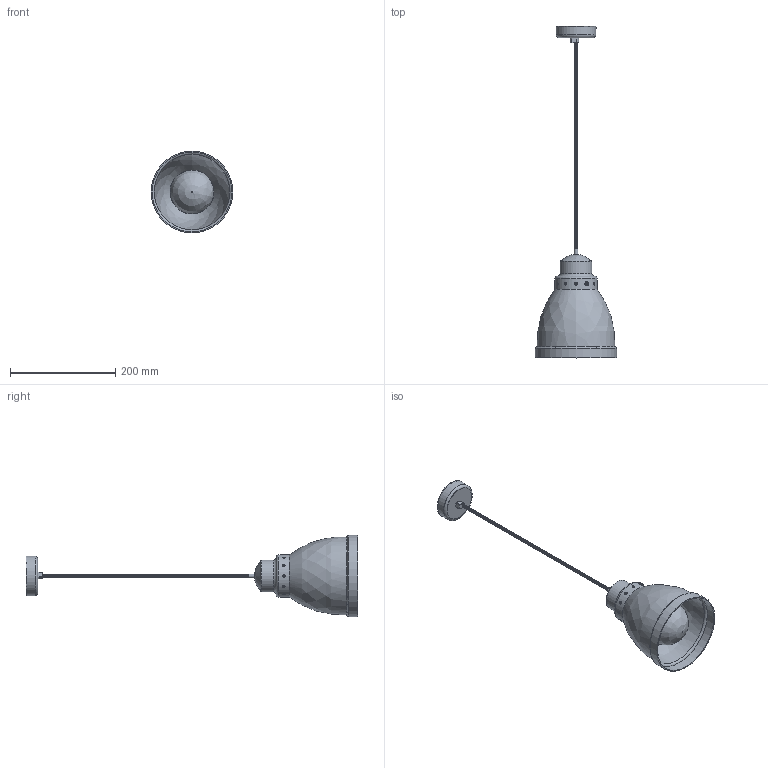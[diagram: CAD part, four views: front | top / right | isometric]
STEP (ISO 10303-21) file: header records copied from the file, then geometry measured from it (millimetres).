
FILE_DESCRIPTION(/* description */ (''),/* implementation_level */ '2;1');
FILE_NAME(/* name */ 'C:\Users\Patryk\Desktop\Modele BIAŁY\LAMPA T14\LAMPA T14.stp',/* time_stamp */ '2019-12-15T01:24:46+01:00',/* author */ ('Patryk'),/* organization */ (''),/* preprocessor_version */ 'ST-DEVELOPER v17',/* originating_system */ 'Autodesk Inventor 2019',/* authorisation */ '');
FILE_SCHEMA (('AUTOMOTIVE_DESIGN { 1 0 10303 214 3 1 1 }'));
Length unit declared in the file: millimetre
Products named in the file (16): LAMPA T14; T14 klosz; T14 LAMPA uchwyt kabla; BLUES kabel II; BLUES kabel I; AS 1427 - M4 x 6; Assembly6; holder; Part71; Part72; fila; Part1; 1. zespol mocowania do sciany; FUNK mocowanie do sciany; FUNK mocowanie kabla; sruba
Assembly tree (413 placements, depth 3):
  LAMPA T14
    T14 klosz
    T14 LAMPA uchwyt kabla
    BLUES kabel II  x200
    BLUES kabel I  x200
    AS 1427 - M4 x 6
    Assembly6
      holder
      Part71
      Part72
      fila
      Part1
    1. zespol mocowania do sciany
      FUNK mocowanie do sciany
      FUNK mocowanie kabla
      sruba
Bounding box: 155 x 629.43 x 155 mm (x, y, z)
Volume: 196274 mm3; surface area: 222639.8 mm2
Topology: 409 solids, 411 shells, 1954 faces, 3059 edges, 1932 vertices
Faces by surface type: plane 853, cylinder 460, cone 368, torus 209, bspline 63, sphere 1
Full cylindrical faces by diameter (mm): 0.3 x2, 0.32 x1, 0.5 x2, 1 x2, 2.5 x1, 3.571 x1, 4 x3, 5 x412, 6 x2, 7 x1, 10.744 x1, 15.635 x1, 22.827 x1, 34.949 x4, 37.2 x5, 56 x1, 60 x1, 73 x1, 75 x1, 76 x1, 80 x1, 151 x1, 155 x1
Entity records: 37297 total; most frequent: CARTESIAN_POINT 15074, DIRECTION 4981, ORIENTED_EDGE 3719, AXIS2_PLACEMENT_3D 2196, EDGE_CURVE 1862, VERTEX_POINT 1136, CIRCLE 1065, EDGE_LOOP 807
